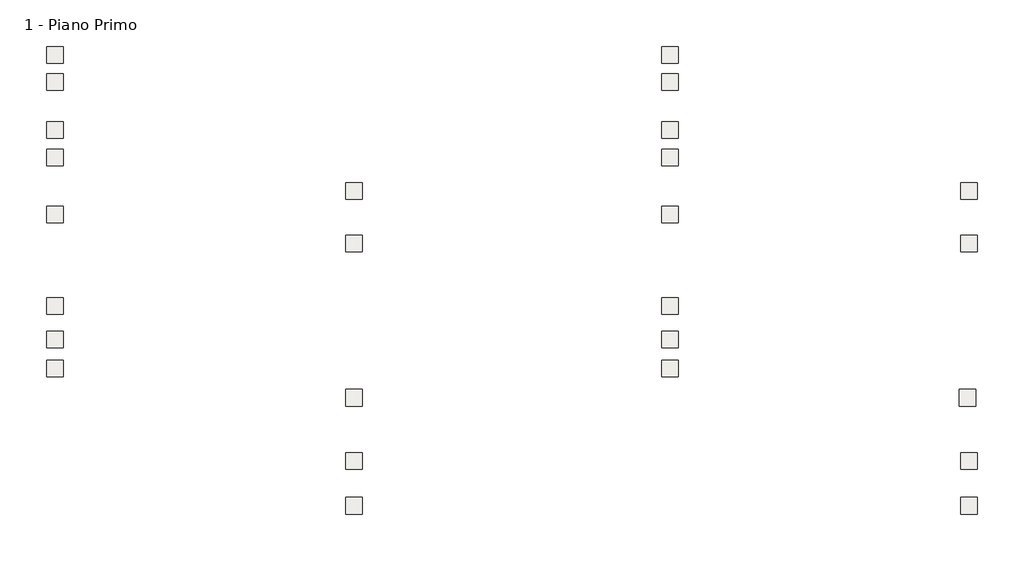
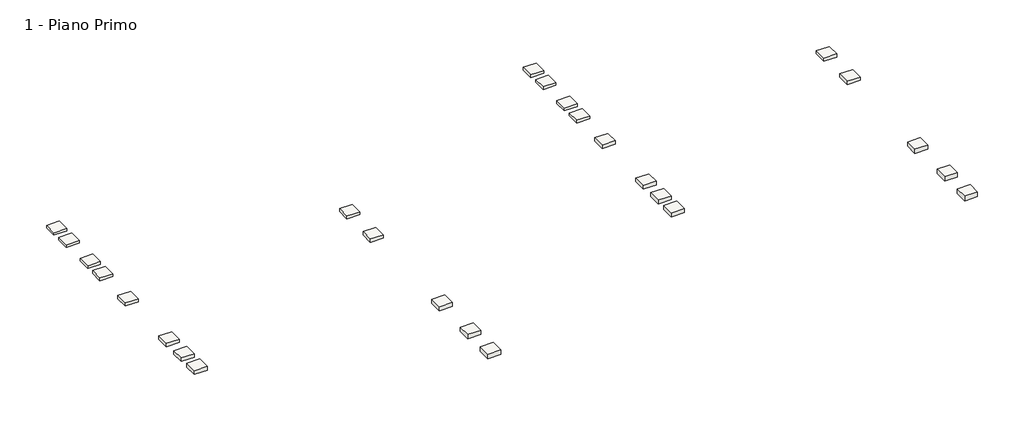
# One storey: 26 roofs.
"""IFC4 building model written with IfcOpenShell, lengths in millimetres."""

from ifc_helpers import new_model, si_unit, frame, origin, place, context, project, spatial, polyline, outline, extrude, element, save

model = new_model("IFC4")

# Units and contexts
model_context = context("Model", 3, world=origin())
ifc_project = project(units=[si_unit("LENGTHUNIT", "METRE", prefix="MILLI")], contexts=[model_context])

# Site, building, storey
site = spatial("IfcSite", under=ifc_project)
building = spatial("IfcBuilding", under=site)
storey = spatial("IfcBuildingStorey", under=building, Name="1 - Piano Primo", Elevation=3100.0)

# Roofs
placement = place(None, origin())
element("IfcRoof", 1, ObjectType="Sistema con membrana ardesiata a vista  STIFERITE CLASS B 30-40 mm ʎd 0,027 W/mK 30 mm", at=placement, inside=storey, context=model_context, shape_type="SweptSolid", body=[
    extrude(outline(polyline([(997.7784655, 26826.1507859), (1997.7784655, 26826.1507859), (1997.7784655, 25826.1507859), (997.7784655, 25826.1507859), (997.7784655, 26826.1507859)])), frame((0.0, 0.0, 3100.0), z_axis=(0.0, 0.0, 1.0), x_axis=(1.0, 0.0, 0.0)), (0.0, 0.0, 1.0), 202.0),
])
element("IfcRoof", 2, ObjectType="Sistema con membrana ardesiata a vista  STIFERITE CLASS B 30-40 mm ʎd 0,027 W/mK 40mm", at=placement, inside=storey, context=model_context, shape_type="SweptSolid", body=[
    extrude(outline(polyline([(997.7784655, 25186.1507859), (1997.7784655, 25186.1507859), (1997.7784655, 24186.1507859), (997.7784655, 24186.1507859), (997.7784655, 25186.1507859)])), frame((0.0, 0.0, 3100.0), z_axis=(0.0, 0.0, 1.0), x_axis=(1.0, 0.0, 0.0)), (0.0, 0.0, 1.0), 212.0),
])
element("IfcRoof", 3, ObjectType="Sistema con membrana ardesiata a vista  STIFERITE CLASS B 50-90 mm ʎd 0,026 W/mK 50mm", at=placement, inside=storey, context=model_context, shape_type="SweptSolid", body=[
    extrude(outline(polyline([(997.7784655, 22316.1507859), (1997.7784655, 22316.1507859), (1997.7784655, 21316.1507859), (997.7784655, 21316.1507859), (997.7784655, 22316.1507859)])), frame((0.0, 0.0, 3100.0), z_axis=(0.0, 0.0, 1.0), x_axis=(1.0, 0.0, 0.0)), (0.0, 0.0, 1.0), 222.0),
])
element("IfcRoof", 4, ObjectType="Sistema con membrana ardesiata a vista  STIFERITE CLASS B 50-90 mm ʎd 0,026 W/mK 60mm", at=placement, inside=storey, context=model_context, shape_type="SweptSolid", body=[
    extrude(outline(polyline([(997.7784655, 20646.1507859), (1997.7784655, 20646.1507859), (1997.7784655, 19646.1507859), (997.7784655, 19646.1507859), (997.7784655, 20646.1507859)])), frame((0.0, 0.0, 3100.0), z_axis=(0.0, 0.0, 1.0), x_axis=(1.0, 0.0, 0.0)), (0.0, 0.0, 1.0), 232.0),
])
element("IfcRoof", 5, ObjectType="Sistema con membrana ardesiata a vista  STIFERITE CLASS B 50-90 mm ʎd 0,026 W/mK 70mm", at=placement, inside=storey, context=model_context, shape_type="SweptSolid", body=[
    extrude(outline(polyline([(19000.0, 18627.8417039), (20000.0, 18627.8417039), (20000.0, 17627.8417039), (19000.0, 17627.8417039), (19000.0, 18627.8417039)])), frame((0.0, 0.0, 3100.0), z_axis=(0.0, 0.0, 1.0), x_axis=(1.0, 0.0, 0.0)), (0.0, 0.0, 1.0), 242.0),
])
element("IfcRoof", 6, ObjectType="Sistema con membrana ardesiata a vista  STIFERITE CLASS B 100-160 mm ʎd 0,025 W/mK 120mm", at=placement, inside=storey, context=model_context, shape_type="SweptSolid", body=[
    extrude(outline(polyline([(997.7784655, 9713.7150278), (1997.7784655, 9713.7150278), (1997.7784655, 8713.7150278), (997.7784655, 8713.7150278), (997.7784655, 9713.7150278)])), frame((0.0, 0.0, 3100.0), z_axis=(0.0, 0.0, 1.0), x_axis=(1.0, 0.0, 0.0)), (0.0, 0.0, 1.0), 292.0),
])
element("IfcRoof", 7, ObjectType="Sistema con membrana ardesiata a vista  STIFERITE CLASS B 100-160 mm ʎd 0,025 W/mK 140mm", at=placement, inside=storey, context=model_context, shape_type="SweptSolid", body=[
    extrude(outline(polyline([(997.7784655, 7956.6516898), (1997.7784655, 7956.6516898), (1997.7784655, 6956.6516898), (997.7784655, 6956.6516898), (997.7784655, 7956.6516898)])), frame((0.0, 0.0, 3100.0), z_axis=(0.0, 0.0, 1.0), x_axis=(1.0, 0.0, 0.0)), (0.0, 0.0, 1.0), 312.0),
])
element("IfcRoof", 8, ObjectType="Sistema con membrana ardesiata a vista  STIFERITE CLASS B 100-160 mm ʎd 0,025 W/mK 160mm", at=placement, inside=storey, context=model_context, shape_type="SweptSolid", body=[
    extrude(outline(polyline([(18997.7784655, 6199.5883517), (19997.7784655, 6199.5883517), (19997.7784655, 5199.5883517), (18997.7784655, 5199.5883517), (18997.7784655, 6199.5883517)])), frame((0.0, 0.0, 3100.0), z_axis=(0.0, 0.0, 1.0), x_axis=(1.0, 0.0, 0.0)), (0.0, 0.0, 1.0), 332.0),
])
element("IfcRoof", 9, ObjectType="Sistema con membrana ardesiata a vista  STIFERITE CLASS B 180-200 mm ʎd 0,024 W/mK 180mm", at=placement, inside=storey, context=model_context, shape_type="SweptSolid", body=[
    extrude(outline(polyline([(19000.0, 2399.04135), (20000.0, 2399.04135), (20000.0, 1399.04135), (19000.0, 1399.04135), (19000.0, 2399.04135)])), frame((0.0, 0.0, 3100.0), z_axis=(0.0, 0.0, 1.0), x_axis=(1.0, 0.0, 0.0)), (0.0, 0.0, 1.0), 352.0),
])
element("IfcRoof", 10, ObjectType="Sistema con membrana ardesiata a vista  STIFERITE CLASS B 180-200 mm ʎd 0,024 W/mK 200mm", at=placement, inside=storey, context=model_context, shape_type="SweptSolid", body=[
    extrude(outline(polyline([(19000.0, -296.0672677), (20000.0, -296.0672677), (20000.0, -1296.0672677), (19000.0, -1296.0672677), (19000.0, -296.0672677)])), frame((0.0, 0.0, 3100.0), z_axis=(0.0, 0.0, 1.0), x_axis=(1.0, 0.0, 0.0)), (0.0, 0.0, 1.0), 372.0),
])
element("IfcRoof", 11, ObjectType="Sistema a tetto caldo con membrana impermeabile di sicurezza STIFERITE CLASS B 30-40 mm ʎd 0,027 W/mK 30mm", at=placement, inside=storey, context=model_context, shape_type="SweptSolid", body=[
    extrude(outline(polyline([(38000.0, 26826.1507859), (39000.0, 26826.1507859), (39000.0, 25826.1507859), (38000.0, 25826.1507859), (38000.0, 26826.1507859)])), frame((0.0, 0.0, 3100.0), z_axis=(0.0, 0.0, 1.0), x_axis=(1.0, 0.0, 0.0)), (0.0, 0.0, 1.0), 222.0),
])
element("IfcRoof", 12, ObjectType="Sistema a tetto caldo con membrana impermeabile di sicurezza STIFERITE CLASS B 30-40 mm ʎd 0,027 W/mK 40mm", at=placement, inside=storey, context=model_context, shape_type="SweptSolid", body=[
    extrude(outline(polyline([(38000.0, 25186.1507859), (39000.0, 25186.1507859), (39000.0, 24186.1507859), (38000.0, 24186.1507859), (38000.0, 25186.1507859)])), frame((0.0, 0.0, 3100.0), z_axis=(0.0, 0.0, 1.0), x_axis=(1.0, 0.0, 0.0)), (0.0, 0.0, 1.0), 228.0),
])
element("IfcRoof", 13, ObjectType="Sistema a tetto caldo con membrana impermeabile di sicurezza STIFERITE CLASS B 50-90 mm ʎd 0,026 W/mK 50mm", at=placement, inside=storey, context=model_context, shape_type="SweptSolid", body=[
    extrude(outline(polyline([(38000.0, 22316.1507859), (39000.0, 22316.1507859), (39000.0, 21316.1507859), (38000.0, 21316.1507859), (38000.0, 22316.1507859)])), frame((0.0, 0.0, 3100.0), z_axis=(0.0, 0.0, 1.0), x_axis=(1.0, 0.0, 0.0)), (0.0, 0.0, 1.0), 238.0),
])
element("IfcRoof", 14, ObjectType="Sistema a tetto caldo con membrana impermeabile di sicurezza STIFERITE CLASS B 50-90 mm ʎd 0,026 W/mK 60mm", at=placement, inside=storey, context=model_context, shape_type="SweptSolid", body=[
    extrude(outline(polyline([(38000.0, 20646.1507859), (39000.0, 20646.1507859), (39000.0, 19646.1507859), (38000.0, 19646.1507859), (38000.0, 20646.1507859)])), frame((0.0, 0.0, 3100.0), z_axis=(0.0, 0.0, 1.0), x_axis=(1.0, 0.0, 0.0)), (0.0, 0.0, 1.0), 232.0),
])
element("IfcRoof", 15, ObjectType="Sistema a tetto caldo con membrana impermeabile di sicurezza STIFERITE CLASS B 50-90 mm ʎd 0,026 W/mK 70mm", at=placement, inside=storey, context=model_context, shape_type="SweptSolid", body=[
    extrude(outline(polyline([(56000.0, 18627.8417039), (57000.0, 18627.8417039), (57000.0, 17627.8417039), (56000.0, 17627.8417039), (56000.0, 18627.8417039)])), frame((0.0, 0.0, 3100.0), z_axis=(0.0, 0.0, 1.0), x_axis=(1.0, 0.0, 0.0)), (0.0, 0.0, 1.0), 258.0),
])
element("IfcRoof", 16, ObjectType="Sistema a tetto caldo con membrana impermeabile di sicurezza STIFERITE CLASS B 100-160 mm ʎd 0,025 W/mK 120mm", at=placement, inside=storey, context=model_context, shape_type="SweptSolid", body=[
    extrude(outline(polyline([(38000.0, 9713.7150278), (39000.0, 9713.7150278), (39000.0, 8713.7150278), (38000.0, 8713.7150278), (38000.0, 9713.7150278)])), frame((0.0, 0.0, 3100.0), z_axis=(0.0, 0.0, 1.0), x_axis=(1.0, 0.0, 0.0)), (0.0, 0.0, 1.0), 308.0),
])
element("IfcRoof", 17, ObjectType="Sistema a tetto caldo con membrana impermeabile di sicurezza STIFERITE CLASS B 100-160 mm ʎd 0,025 W/mK 140mm", at=placement, inside=storey, context=model_context, shape_type="SweptSolid", body=[
    extrude(outline(polyline([(38000.0, 7956.6516898), (39000.0, 7956.6516898), (39000.0, 6956.6516898), (38000.0, 6956.6516898), (38000.0, 7956.6516898)])), frame((0.0, 0.0, 3100.0), z_axis=(0.0, 0.0, 1.0), x_axis=(1.0, 0.0, 0.0)), (0.0, 0.0, 1.0), 328.0),
])
element("IfcRoof", 18, ObjectType="Sistema a tetto caldo con membrana impermeabile di sicurezza STIFERITE CLASS B 100-160 mm ʎd 0,025 W/mK 160mm", at=placement, inside=storey, context=model_context, shape_type="SweptSolid", body=[
    extrude(outline(polyline([(55900.0, 6199.5883517), (56900.0, 6199.5883517), (56900.0, 5199.5883517), (55900.0, 5199.5883517), (55900.0, 6199.5883517)])), frame((0.0, 0.0, 3100.0), z_axis=(0.0, 0.0, 1.0), x_axis=(1.0, 0.0, 0.0)), (0.0, 0.0, 1.0), 348.0),
])
element("IfcRoof", 19, ObjectType="Sistema a tetto caldo con membrana impermeabile di sicurezza STIFERITE CLASS B 180-200 mm ʎd 0,024 W/mK 180mm", at=placement, inside=storey, context=model_context, shape_type="SweptSolid", body=[
    extrude(outline(polyline([(56000.0, 2399.04135), (57000.0, 2399.04135), (57000.0, 1399.04135), (56000.0, 1399.04135), (56000.0, 2399.04135)])), frame((0.0, 0.0, 3100.0), z_axis=(0.0, 0.0, 1.0), x_axis=(1.0, 0.0, 0.0)), (0.0, 0.0, 1.0), 368.0),
])
element("IfcRoof", 20, ObjectType="Sistema a tetto caldo con membrana impermeabile di sicurezza STIFERITE CLASS B 180-200 mm ʎd 0,024 W/mK 200mm", at=placement, inside=storey, context=model_context, shape_type="SweptSolid", body=[
    extrude(outline(polyline([(56000.0, -296.0672677), (57000.0, -296.0672677), (57000.0, -1296.0672677), (56000.0, -1296.0672677), (56000.0, -296.0672677)])), frame((0.0, 0.0, 3100.0), z_axis=(0.0, 0.0, 1.0), x_axis=(1.0, 0.0, 0.0)), (0.0, 0.0, 1.0), 388.0),
])
element("IfcRoof", 21, ObjectType="Sistema con membrana ardesiata a vista  STIFERITE CLASS B 100-160 mm ʎd 0,025 W/mK 80mm", at=placement, inside=storey, context=model_context, shape_type="SweptSolid", body=[
    extrude(outline(polyline([(997.7784655, 17227.8417039), (1997.7784655, 17227.8417039), (1997.7784655, 16227.8417039), (997.7784655, 16227.8417039), (997.7784655, 17227.8417039)])), frame((0.0, 0.0, 3100.0), z_axis=(0.0, 0.0, 1.0), x_axis=(1.0, 0.0, 0.0)), (0.0, 0.0, 1.0), 252.0),
])
element("IfcRoof", 22, ObjectType="Sistema con membrana ardesiata a vista  STIFERITE CLASS B 50-90 mm ʎd 0,026 W/mK 90mm", at=placement, inside=storey, context=model_context, shape_type="SweptSolid", body=[
    extrude(outline(polyline([(19000.0, 15470.7783658), (20000.0, 15470.7783658), (20000.0, 14470.7783658), (19000.0, 14470.7783658), (19000.0, 15470.7783658)])), frame((0.0, 0.0, 3100.0), z_axis=(0.0, 0.0, 1.0), x_axis=(1.0, 0.0, 0.0)), (0.0, 0.0, 1.0), 262.0),
])
element("IfcRoof", 23, ObjectType="Sistema con membrana ardesiata a vista  STIFERITE CLASS B 100-160 mm ʎd 0,025 W/mK 100mm", at=placement, inside=storey, context=model_context, shape_type="SweptSolid", body=[
    extrude(outline(polyline([(997.7784655, 11713.7150278), (1997.7784655, 11713.7150278), (1997.7784655, 10713.7150278), (997.7784655, 10713.7150278), (997.7784655, 11713.7150278)])), frame((0.0, 0.0, 3100.0), z_axis=(0.0, 0.0, 1.0), x_axis=(1.0, 0.0, 0.0)), (0.0, 0.0, 1.0), 272.0),
])
element("IfcRoof", 24, ObjectType="Sistema a tetto caldo con membrana impermeabile di sicurezza STIFERITE CLASS B 50-90 mm ʎd 0,026 W/mK 80mm", at=placement, inside=storey, context=model_context, shape_type="SweptSolid", body=[
    extrude(outline(polyline([(38000.0, 17227.8417039), (39000.0, 17227.8417039), (39000.0, 16227.8417039), (38000.0, 16227.8417039), (38000.0, 17227.8417039)])), frame((0.0, 0.0, 3100.0), z_axis=(0.0, 0.0, 1.0), x_axis=(1.0, 0.0, 0.0)), (0.0, 0.0, 1.0), 268.0),
])
element("IfcRoof", 25, ObjectType="Sistema a tetto caldo con membrana impermeabile di sicurezza STIFERITE CLASS B 50-90 mm ʎd 0,026 W/mK 90mm", at=placement, inside=storey, context=model_context, shape_type="SweptSolid", body=[
    extrude(outline(polyline([(56000.0, 15470.7783658), (57000.0, 15470.7783658), (57000.0, 14470.7783658), (56000.0, 14470.7783658), (56000.0, 15470.7783658)])), frame((0.0, 0.0, 3100.0), z_axis=(0.0, 0.0, 1.0), x_axis=(1.0, 0.0, 0.0)), (0.0, 0.0, 1.0), 278.0),
])
element("IfcRoof", 26, ObjectType="Sistema a tetto caldo con membrana impermeabile di sicurezza STIFERITE CLASS B 100-160 mm ʎd 0,025 W/mK 100mm", at=placement, inside=storey, context=model_context, shape_type="SweptSolid", body=[
    extrude(outline(polyline([(38000.0, 11713.7150278), (39000.0, 11713.7150278), (39000.0, 10713.7150278), (38000.0, 10713.7150278), (38000.0, 11713.7150278)])), frame((0.0, 0.0, 3100.0), z_axis=(0.0, 0.0, 1.0), x_axis=(1.0, 0.0, 0.0)), (0.0, 0.0, 1.0), 288.0),
])

save(model, "model.ifc")
